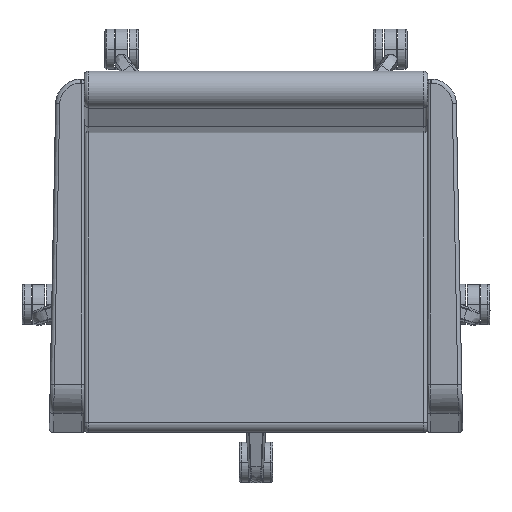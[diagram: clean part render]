
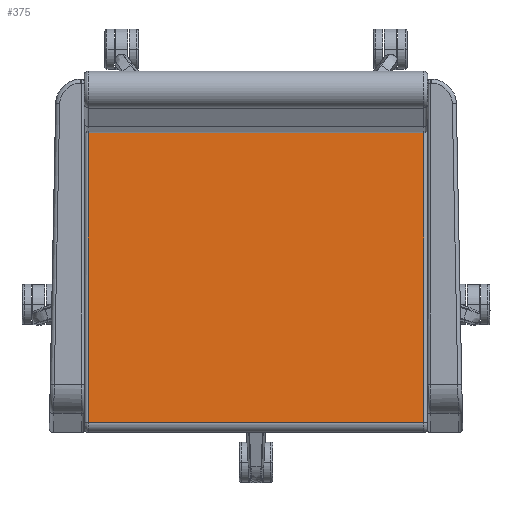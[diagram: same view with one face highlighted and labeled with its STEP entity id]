
A CAD part, top view. The second image highlights one B-rep face of the part: STEP entity #375.
In plain terms, the highlighted free-form (B-spline) face has degree [3, 1] with [4, 2] control points.
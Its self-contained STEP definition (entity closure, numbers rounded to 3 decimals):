
#375=ADVANCED_FACE('',(#740),#5050,.T.);
#740=FACE_OUTER_BOUND('',#1105,.T.);
#1105=EDGE_LOOP('',(#2151,#2152,#2153,#2154));
#2151=ORIENTED_EDGE('',*,*,#3325,.T.);
#2152=ORIENTED_EDGE('',*,*,#3288,.T.);
#2153=ORIENTED_EDGE('',*,*,#3326,.F.);
#2154=ORIENTED_EDGE('',*,*,#3287,.F.);
#3287=EDGE_CURVE('',#4735,#4736,#4203,.T.);
#3288=EDGE_CURVE('',#4737,#4738,#4204,.T.);
#3325=EDGE_CURVE('',#4735,#4737,#4235,.T.);
#3326=EDGE_CURVE('',#4736,#4738,#4236,.T.);
#4203=(
BOUNDED_CURVE()
B_SPLINE_CURVE(1,(#15779,#15780),.UNSPECIFIED.,.F.,.F.)
B_SPLINE_CURVE_WITH_KNOTS((2,2),(6.,504.),.UNSPECIFIED.)
CURVE()
GEOMETRIC_REPRESENTATION_ITEM()
RATIONAL_B_SPLINE_CURVE((1.,1.))
REPRESENTATION_ITEM('')
);
#4204=(
BOUNDED_CURVE()
B_SPLINE_CURVE(1,(#15781,#15782),.UNSPECIFIED.,.F.,.F.)
B_SPLINE_CURVE_WITH_KNOTS((2,2),(6.,504.),.UNSPECIFIED.)
CURVE()
GEOMETRIC_REPRESENTATION_ITEM()
RATIONAL_B_SPLINE_CURVE((1.,1.))
REPRESENTATION_ITEM('')
);
#4235=(
BOUNDED_CURVE()
B_SPLINE_CURVE(1,(#15914,#15915),.UNSPECIFIED.,.F.,.F.)
B_SPLINE_CURVE_WITH_KNOTS((2,2),(0.,432.642),
 .UNSPECIFIED.)
CURVE()
GEOMETRIC_REPRESENTATION_ITEM()
RATIONAL_B_SPLINE_CURVE((1.,1.))
REPRESENTATION_ITEM('')
);
#4236=(
BOUNDED_CURVE()
B_SPLINE_CURVE(1,(#15916,#15917),.UNSPECIFIED.,.F.,.F.)
B_SPLINE_CURVE_WITH_KNOTS((2,2),(0.,432.642),
 .UNSPECIFIED.)
CURVE()
GEOMETRIC_REPRESENTATION_ITEM()
RATIONAL_B_SPLINE_CURVE((1.,1.))
REPRESENTATION_ITEM('')
);
#4735=VERTEX_POINT('',#15699);
#4736=VERTEX_POINT('',#15700);
#4737=VERTEX_POINT('',#15701);
#4738=VERTEX_POINT('',#15702);
#5050=(
BOUNDED_SURFACE()
B_SPLINE_SURFACE(3,1,((#15309,#15310),(#15311,#15312),(#15313,#15314),(#15315,
#15316)),.UNSPECIFIED.,.F.,.F.,.F.)
B_SPLINE_SURFACE_WITH_KNOTS((4,4),(2,2),(-1381.837,-949.195),
(0.,510.),.UNSPECIFIED.)
GEOMETRIC_REPRESENTATION_ITEM()
RATIONAL_B_SPLINE_SURFACE(((1.,1.),(1.,1.),(1.,1.),(1.,1.)))
REPRESENTATION_ITEM('')
SURFACE()
);
#15309=CARTESIAN_POINT('',(-255.,170.787,428.017));
#15310=CARTESIAN_POINT('',(255.,170.787,428.017));
#15311=CARTESIAN_POINT('',(-255.,26.739,434.942));
#15312=CARTESIAN_POINT('',(255.,26.739,434.942));
#15313=CARTESIAN_POINT('',(-255.,-117.308,441.867));
#15314=CARTESIAN_POINT('',(255.,-117.308,441.867));
#15315=CARTESIAN_POINT('',(-255.,-261.356,448.793));
#15316=CARTESIAN_POINT('',(255.,-261.356,448.793));
#15699=CARTESIAN_POINT('',(-249.,170.787,428.017));
#15700=CARTESIAN_POINT('',(249.,170.787,428.017));
#15701=CARTESIAN_POINT('',(-249.,-261.356,448.793));
#15702=CARTESIAN_POINT('',(249.,-261.356,448.793));
#15779=CARTESIAN_POINT('',(-249.,170.787,428.017));
#15780=CARTESIAN_POINT('',(249.,170.787,428.017));
#15781=CARTESIAN_POINT('',(-249.,-261.356,448.793));
#15782=CARTESIAN_POINT('',(249.,-261.356,448.793));
#15914=CARTESIAN_POINT('',(-249.,170.787,428.017));
#15915=CARTESIAN_POINT('',(-249.,-261.356,448.793));
#15916=CARTESIAN_POINT('',(249.,170.787,428.017));
#15917=CARTESIAN_POINT('',(249.,-261.356,448.793));
